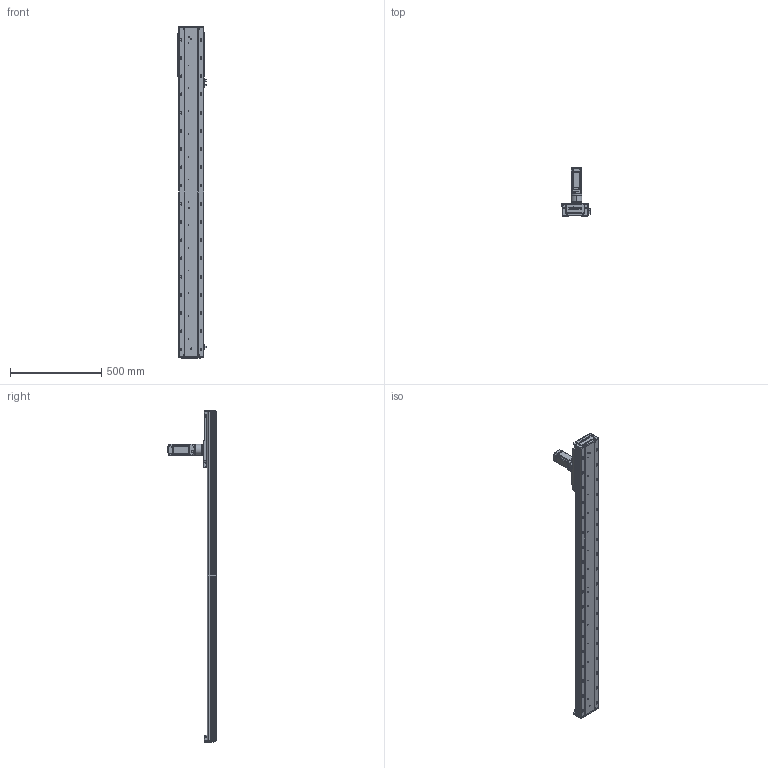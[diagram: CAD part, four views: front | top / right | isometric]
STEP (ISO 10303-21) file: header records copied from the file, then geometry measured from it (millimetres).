
FILE_DESCRIPTION (( 'STEP AP203' ), '1' );
FILE_NAME ('RY140-C-250-UK.SLDASM_1450.step', '2022-03-12T01:59:16', ( '' ), ( '' ), 'SwSTEP 2.0', 'SolidWorks 2016', '' );
FILE_SCHEMA (( 'CONFIG_CONTROL_DESIGN' ));
Length unit declared in the file: millimetre
Products named in the file (12): RY140-絳寢EGH15-300-MK_1450; RY120外置感应片(140共用）; RY140-喘沭賑輸; 15; RY140-喘謫萇儂覃誹啣; 絳寢賑輸EGH15; 覜茼ん672; RY140-300齿条模组型材底座_1450; 140蚥薯蝶輸; RY140-C-250-UK.SLDASM_1450; 60ZDF珨撰俋倛芞T1 200W M4; RY140-喘沭裔啣
Assembly tree (21 placements, depth 2):
  RY140-C-250-UK.SLDASM_1450
    RY140-300齿条模组型材底座_1450
    RY140-絳寢EGH15-300-MK_1450  x2
    絳寢賑輸EGH15  x6
    RY140-喘沭裔啣  x2
    覜茼ん672  x3
    RY140-喘沭賑輸
    RY120外置感应片(140共用）
    RY140-喘謫萇儂覃誹啣
    140蚥薯蝶輸  x2
    60ZDF珨撰俋倛芞T1 200W M4
    15
Bounding box: 153.7 x 263.5 x 1822 mm (x, y, z)
Volume: 6146641.5 mm3; surface area: 1647641 mm2
Topology: 21 solids, 21 shells, 3666 faces, 9800 edges, 6330 vertices
Faces by surface type: cylinder 1678, plane 1674, cone 268, bspline 46
Entity records: 83787 total; most frequent: CARTESIAN_POINT 18560, ORIENTED_EDGE 13290, DIRECTION 13283, EDGE_CURVE 6645, AXIS2_PLACEMENT_3D 4774, VERTEX_POINT 4351, VECTOR 3735, LINE 3735
